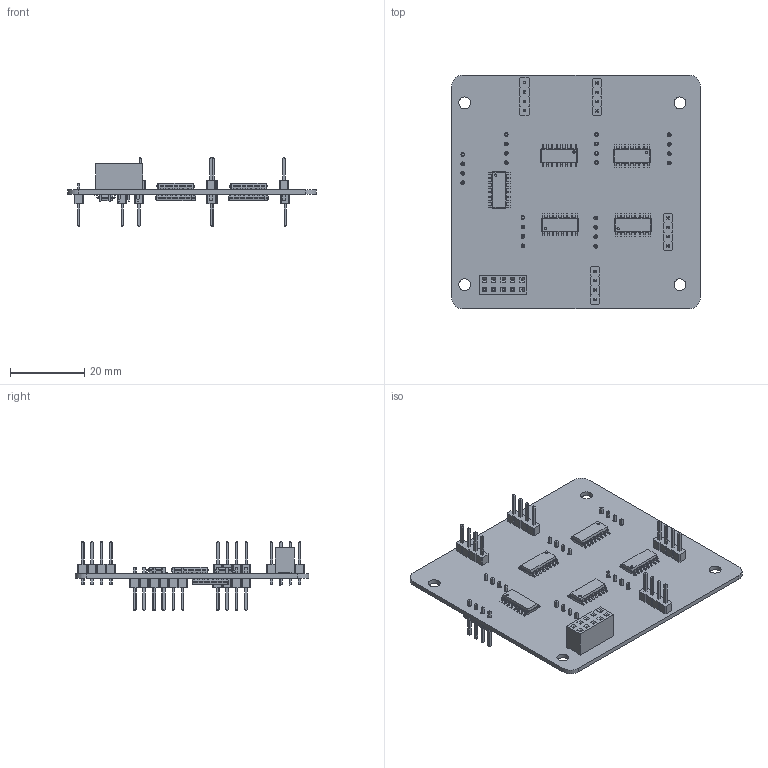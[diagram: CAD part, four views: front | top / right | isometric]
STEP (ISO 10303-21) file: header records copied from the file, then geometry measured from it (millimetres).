
FILE_DESCRIPTION(('KiCad electronic assembly'),'2;1');
FILE_NAME('armbian-testing.step','2019-07-26T07:47:59',('An Author'),( 'A Company'),'Open CASCADE STEP processor 6.9', 'KiCad to STEP converter','Unknown');
FILE_SCHEMA(('AUTOMOTIVE_DESIGN { 1 0 10303 214 1 1 1 1 }'));
Length unit declared in the file: millimetre
Products named in the file (8): Open CASCADE STEP translator 6.9 1; PinHeader_1x04_P2.54mm_Vertical; SOLID; SOIC-16_3.9x9.9mm_P1.27mm; PinSocket_2x05_P2.54mm_Vertical; COMPOUND
Assembly tree (25 placements, depth 3):
  Open CASCADE STEP translator 6.9 1
    PinHeader_1x04_P2.54mm_Vertical  x10
      SOLID
    SOIC-16_3.9x9.9mm_P1.27mm  x10
      SOLID
    PinSocket_2x05_P2.54mm_Vertical
      SOLID
    COMPOUND
Bounding box: 67 x 63 x 18.38 mm (x, y, z)
Volume: 6803.8 mm3; surface area: 12969.3 mm2
Topology: 22 solids, 22 shells, 4144 faces, 10700 edges, 6720 vertices
Faces by surface type: plane 3036, cylinder 708, bspline 400
Full cylindrical faces by diameter (mm): 0.6 x10, 1 x50, 3.2 x4
Entity records: 53997 total; most frequent: CARTESIAN_POINT 8613, DIRECTION 7491, LINE 5325, VECTOR 5325, ORIENTED_EDGE 3958, PCURVE 3958, DEFINITIONAL_REPRESENTATION 3958, EDGE_CURVE 1979
